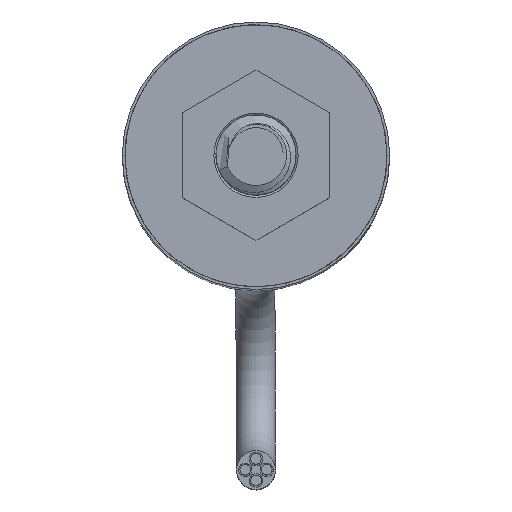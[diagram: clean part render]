
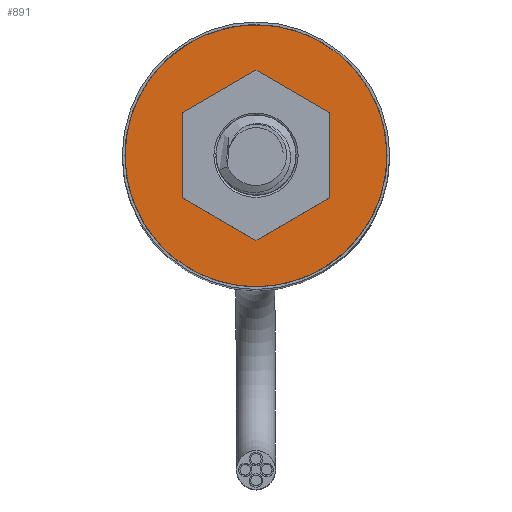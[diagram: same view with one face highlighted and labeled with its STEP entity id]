
A CAD part, top view. The second image highlights one B-rep face of the part: STEP entity #891.
In plain terms, the highlighted planar face has unit normal (0, 0, 1).
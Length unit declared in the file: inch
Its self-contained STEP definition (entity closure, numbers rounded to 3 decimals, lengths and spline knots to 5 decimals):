
#65=FACE_BOUND('',#181,.T.);
#83=PLANE('',#1126);
#118=FACE_OUTER_BOUND('',#180,.T.);
#180=EDGE_LOOP('',(#604));
#181=EDGE_LOOP('',(#605));
#352=CIRCLE('',#1121,0.11);
#355=CIRCLE('',#1125,0.245);
#402=VERTEX_POINT('',#1524);
#405=VERTEX_POINT('',#1532);
#478=EDGE_CURVE('',#402,#402,#352,.T.);
#483=EDGE_CURVE('',#405,#405,#355,.T.);
#604=ORIENTED_EDGE('',*,*,#483,.T.);
#605=ORIENTED_EDGE('',*,*,#478,.T.);
#891=ADVANCED_FACE('',(#118,#65),#83,.T.);
#1121=AXIS2_PLACEMENT_3D('',#1525,#1250,#1251);
#1125=AXIS2_PLACEMENT_3D('',#1534,#1260,#1261);
#1126=AXIS2_PLACEMENT_3D('',#1535,#1262,#1263);
#1250=DIRECTION('center_axis',(0.,0.,
-1.));
#1251=DIRECTION('ref_axis',(0.998,0.061,0.));
#1260=DIRECTION('center_axis',(0.,0.,
1.));
#1261=DIRECTION('ref_axis',(0.998,0.061,0.));
#1262=DIRECTION('center_axis',(0.,0.,
1.));
#1263=DIRECTION('ref_axis',(0.998,0.061,0.));
#1524=CARTESIAN_POINT('',(-0.1098,-0.00666,0.));
#1525=CARTESIAN_POINT('Origin',(0.,0.,
0.));
#1532=CARTESIAN_POINT('',(-0.24455,-0.01484,0.));
#1534=CARTESIAN_POINT('Origin',(0.,0.,
0.));
#1535=CARTESIAN_POINT('Origin',(0.,0.,
0.));
